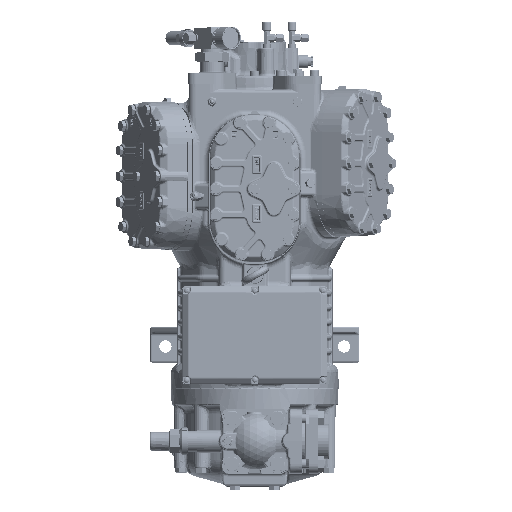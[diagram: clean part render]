
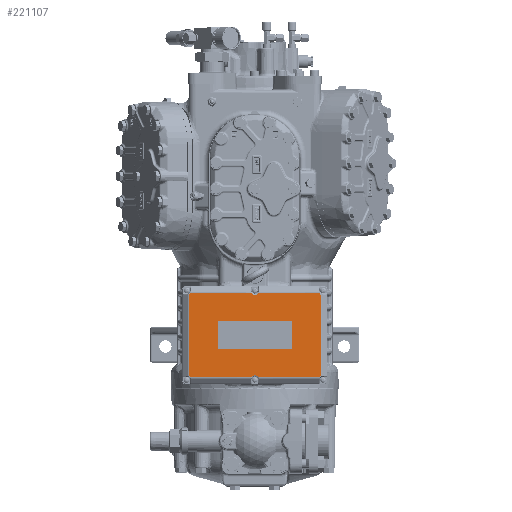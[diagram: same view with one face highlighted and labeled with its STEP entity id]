
A CAD part, top view. The second image highlights one B-rep face of the part: STEP entity #221107.
In plain terms, the highlighted planar face has unit normal (0, 0, 1).
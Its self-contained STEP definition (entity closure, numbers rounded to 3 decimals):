
#217973=CARTESIAN_POINT('',(64.201,-126.816,196.746));
#217974=VERTEX_POINT('',#217973);
#217981=CARTESIAN_POINT('',(-63.299,-126.816,196.746));
#217982=VERTEX_POINT('',#217981);
#217983=CARTESIAN_POINT('',(64.201,-126.816,196.746));
#217984=DIRECTION('',(-1.,0.,-0.));
#217985=VECTOR('',#217984,127.5);
#217986=LINE('',#217983,#217985);
#217987=EDGE_CURVE('',#217974,#217982,#217986,.T.);
#218005=CARTESIAN_POINT('',(-63.299,-173.316,196.746));
#218006=VERTEX_POINT('',#218005);
#218007=CARTESIAN_POINT('',(-63.299,-126.816,196.746));
#218008=DIRECTION('',(-0.,-1.,0.));
#218009=VECTOR('',#218008,46.5);
#218010=LINE('',#218007,#218009);
#218011=EDGE_CURVE('',#217982,#218006,#218010,.T.);
#218029=CARTESIAN_POINT('',(64.201,-173.316,196.746));
#218030=VERTEX_POINT('',#218029);
#218031=CARTESIAN_POINT('',(-63.299,-173.316,196.746));
#218032=DIRECTION('',(1.,-0.,0.));
#218033=VECTOR('',#218032,127.5);
#218034=LINE('',#218031,#218033);
#218035=EDGE_CURVE('',#218006,#218030,#218034,.T.);
#218053=CARTESIAN_POINT('',(64.201,-173.316,196.746));
#218054=DIRECTION('',(0.,1.,0.));
#218055=VECTOR('',#218054,46.5);
#218056=LINE('',#218053,#218055);
#218057=EDGE_CURVE('',#218030,#217974,#218056,.T.);
#218068=CARTESIAN_POINT('',(-5.606,-222.018,196.746));
#218069=VERTEX_POINT('',#218068);
#218097=CARTESIAN_POINT('',(6.507,-222.018,196.746));
#218098=VERTEX_POINT('',#218097);
#218115=CARTESIAN_POINT('',(-5.606,-222.018,196.746));
#218116=CARTESIAN_POINT('',(-3.455,-218.759,196.746));
#218117=CARTESIAN_POINT('',(0.451,-218.759,196.746));
#218118=CARTESIAN_POINT('',(4.356,-218.759,196.746));
#218119=CARTESIAN_POINT('',(6.507,-222.018,196.746));
#218120=(BOUNDED_CURVE()
B_SPLINE_CURVE(2,(#218115,#218116,#218117,#218118,#218119),.UNSPECIFIED.,.F.,.F.)
B_SPLINE_CURVE_WITH_KNOTS((3,2,3),(33.427,90.,146.573),.UNSPECIFIED.)
CURVE()
GEOMETRIC_REPRESENTATION_ITEM()
RATIONAL_B_SPLINE_CURVE((1.,0.881,1.,0.881,1.))
REPRESENTATION_ITEM(''));
#218121=EDGE_CURVE('',#218069,#218098,#218120,.T.);
#218133=CARTESIAN_POINT('',(-5.606,-78.114,196.746));
#218134=VERTEX_POINT('',#218133);
#218151=CARTESIAN_POINT('',(6.507,-78.114,196.746));
#218152=VERTEX_POINT('',#218151);
#218153=CARTESIAN_POINT('',(6.507,-78.114,196.746));
#218154=CARTESIAN_POINT('',(4.356,-81.373,196.746));
#218155=CARTESIAN_POINT('',(0.451,-81.373,196.746));
#218156=CARTESIAN_POINT('',(-3.455,-81.373,196.746));
#218157=CARTESIAN_POINT('',(-5.606,-78.114,196.746));
#218158=(BOUNDED_CURVE()
B_SPLINE_CURVE(2,(#218153,#218154,#218155,#218156,#218157),.UNSPECIFIED.,.F.,.F.)
B_SPLINE_CURVE_WITH_KNOTS((3,2,3),(213.427,270.,326.573),.UNSPECIFIED.)
CURVE()
GEOMETRIC_REPRESENTATION_ITEM()
RATIONAL_B_SPLINE_CURVE((1.,0.881,1.,0.881,1.))
REPRESENTATION_ITEM(''));
#218159=EDGE_CURVE('',#218152,#218134,#218158,.T.);
#220070=CARTESIAN_POINT('',(109.271,-78.114,196.746));
#220071=VERTEX_POINT('',#220070);
#220079=CARTESIAN_POINT('',(112.353,-81.195,196.746));
#220080=VERTEX_POINT('',#220079);
#220081=CARTESIAN_POINT('',(112.353,-81.195,196.746));
#220082=CARTESIAN_POINT('',(112.353,-79.214,196.746));
#220083=CARTESIAN_POINT('',(111.252,-78.114,196.746));
#220084=CARTESIAN_POINT('',(109.271,-78.114,196.746));
#220085=(BOUNDED_CURVE()
B_SPLINE_CURVE(3,(#220081,#220082,#220083,#220084),.UNSPECIFIED.,.F.,.F.)
B_SPLINE_CURVE_WITH_KNOTS((4,4),(5.832,6.734),.UNSPECIFIED.)
CURVE()
GEOMETRIC_REPRESENTATION_ITEM()
RATIONAL_B_SPLINE_CURVE((1.,0.933,0.933,1.))
REPRESENTATION_ITEM(''));
#220086=EDGE_CURVE('',#220080,#220071,#220085,.T.);
#220542=CARTESIAN_POINT('',(-111.452,-81.195,196.746));
#220543=VERTEX_POINT('',#220542);
#220551=CARTESIAN_POINT('',(-108.37,-78.114,196.746));
#220552=VERTEX_POINT('',#220551);
#220553=CARTESIAN_POINT('',(-108.37,-78.114,196.746));
#220554=CARTESIAN_POINT('',(-110.351,-78.114,196.746));
#220555=CARTESIAN_POINT('',(-111.452,-79.214,196.746));
#220556=CARTESIAN_POINT('',(-111.452,-81.195,196.746));
#220557=(BOUNDED_CURVE()
B_SPLINE_CURVE(3,(#220553,#220554,#220555,#220556),.UNSPECIFIED.,.F.,.F.)
B_SPLINE_CURVE_WITH_KNOTS((4,4),(5.832,6.734),.UNSPECIFIED.)
CURVE()
GEOMETRIC_REPRESENTATION_ITEM()
RATIONAL_B_SPLINE_CURVE((1.,0.933,0.933,1.))
REPRESENTATION_ITEM(''));
#220558=EDGE_CURVE('',#220552,#220543,#220557,.T.);
#220805=CARTESIAN_POINT('',(-108.37,-222.018,196.746));
#220806=VERTEX_POINT('',#220805);
#220814=CARTESIAN_POINT('',(-111.452,-218.936,196.746));
#220815=VERTEX_POINT('',#220814);
#220816=CARTESIAN_POINT('',(-111.452,-218.936,196.746));
#220817=CARTESIAN_POINT('',(-111.452,-220.918,196.746));
#220818=CARTESIAN_POINT('',(-110.351,-222.018,196.746));
#220819=CARTESIAN_POINT('',(-108.37,-222.018,196.746));
#220820=(BOUNDED_CURVE()
B_SPLINE_CURVE(3,(#220816,#220817,#220818,#220819),.UNSPECIFIED.,.F.,.F.)
B_SPLINE_CURVE_WITH_KNOTS((4,4),(2.691,3.593),.UNSPECIFIED.)
CURVE()
GEOMETRIC_REPRESENTATION_ITEM()
RATIONAL_B_SPLINE_CURVE((1.,0.933,0.933,1.))
REPRESENTATION_ITEM(''));
#220821=EDGE_CURVE('',#220815,#220806,#220820,.T.);
#221042=CARTESIAN_POINT('',(0.451,-150.066,196.746));
#221043=DIRECTION('',(0.,0.,1.));
#221044=DIRECTION('',(-0.,-1.,0.));
#221045=AXIS2_PLACEMENT_3D('',#221042,#221043,#221044);
#221046=PLANE('',#221045);
#221047=CARTESIAN_POINT('',(109.271,-78.114,196.746));
#221048=DIRECTION('',(-1.,0.,-0.));
#221049=VECTOR('',#221048,102.764);
#221050=LINE('',#221047,#221049);
#221051=EDGE_CURVE('',#220071,#218152,#221050,.T.);
#221052=ORIENTED_EDGE('',*,*,#221051,.T.);
#221053=ORIENTED_EDGE('',*,*,#218159,.T.);
#221054=CARTESIAN_POINT('',(-5.606,-78.114,196.746));
#221055=DIRECTION('',(-1.,0.,-0.));
#221056=VECTOR('',#221055,102.764);
#221057=LINE('',#221054,#221056);
#221058=EDGE_CURVE('',#218134,#220552,#221057,.T.);
#221059=ORIENTED_EDGE('',*,*,#221058,.T.);
#221060=ORIENTED_EDGE('',*,*,#220558,.T.);
#221061=CARTESIAN_POINT('',(-111.452,-81.195,196.746));
#221062=DIRECTION('',(-0.,-1.,0.));
#221063=VECTOR('',#221062,137.741);
#221064=LINE('',#221061,#221063);
#221065=EDGE_CURVE('',#220543,#220815,#221064,.T.);
#221066=ORIENTED_EDGE('',*,*,#221065,.T.);
#221067=ORIENTED_EDGE('',*,*,#220821,.T.);
#221068=CARTESIAN_POINT('',(-108.37,-222.018,196.746));
#221069=DIRECTION('',(1.,-0.,-0.));
#221070=VECTOR('',#221069,102.764);
#221071=LINE('',#221068,#221070);
#221072=EDGE_CURVE('',#220806,#218069,#221071,.T.);
#221073=ORIENTED_EDGE('',*,*,#221072,.T.);
#221074=ORIENTED_EDGE('',*,*,#218121,.T.);
#221075=CARTESIAN_POINT('',(109.271,-222.018,196.746));
#221076=VERTEX_POINT('',#221075);
#221077=CARTESIAN_POINT('',(6.507,-222.018,196.746));
#221078=DIRECTION('',(1.,-0.,0.));
#221079=VECTOR('',#221078,102.764);
#221080=LINE('',#221077,#221079);
#221081=EDGE_CURVE('',#218098,#221076,#221080,.T.);
#221082=ORIENTED_EDGE('',*,*,#221081,.T.);
#221083=CARTESIAN_POINT('',(112.353,-218.936,196.746));
#221084=VERTEX_POINT('',#221083);
#221085=CARTESIAN_POINT('',(109.271,-222.018,196.746));
#221086=CARTESIAN_POINT('',(111.252,-222.018,196.746));
#221087=CARTESIAN_POINT('',(112.353,-220.918,196.746));
#221088=CARTESIAN_POINT('',(112.353,-218.936,196.746));
#221089=(BOUNDED_CURVE()
B_SPLINE_CURVE(3,(#221085,#221086,#221087,#221088),.UNSPECIFIED.,.F.,.F.)
B_SPLINE_CURVE_WITH_KNOTS((4,4),(2.691,3.593),.UNSPECIFIED.)
CURVE()
GEOMETRIC_REPRESENTATION_ITEM()
RATIONAL_B_SPLINE_CURVE((1.,0.933,0.933,1.))
REPRESENTATION_ITEM(''));
#221090=EDGE_CURVE('',#221076,#221084,#221089,.T.);
#221091=ORIENTED_EDGE('',*,*,#221090,.T.);
#221092=CARTESIAN_POINT('',(112.353,-218.936,196.746));
#221093=DIRECTION('',(0.,1.,-0.));
#221094=VECTOR('',#221093,137.741);
#221095=LINE('',#221092,#221094);
#221096=EDGE_CURVE('',#221084,#220080,#221095,.T.);
#221097=ORIENTED_EDGE('',*,*,#221096,.T.);
#221098=ORIENTED_EDGE('',*,*,#220086,.T.);
#221099=EDGE_LOOP('',(#221052,#221053,#221059,#221060,#221066,#221067,#221073,#221074,#221082,#221091,#221097,#221098));
#221100=FACE_BOUND('',#221099,.T.);
#221101=ORIENTED_EDGE('',*,*,#218057,.F.);
#221102=ORIENTED_EDGE('',*,*,#218035,.F.);
#221103=ORIENTED_EDGE('',*,*,#218011,.F.);
#221104=ORIENTED_EDGE('',*,*,#217987,.F.);
#221105=EDGE_LOOP('',(#221101,#221102,#221103,#221104));
#221106=FACE_BOUND('',#221105,.T.);
#221107=ADVANCED_FACE('',(#221100,#221106),#221046,.T.);
